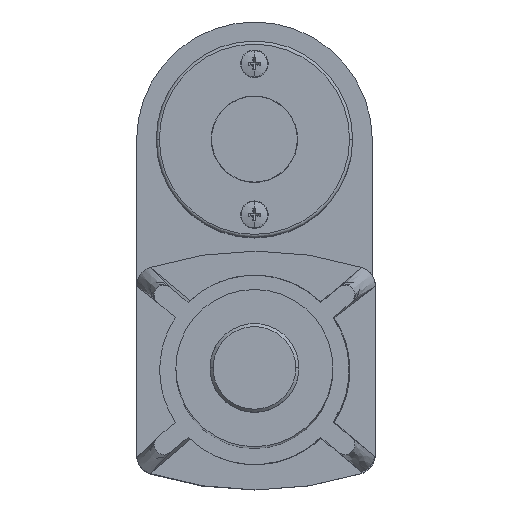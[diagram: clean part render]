
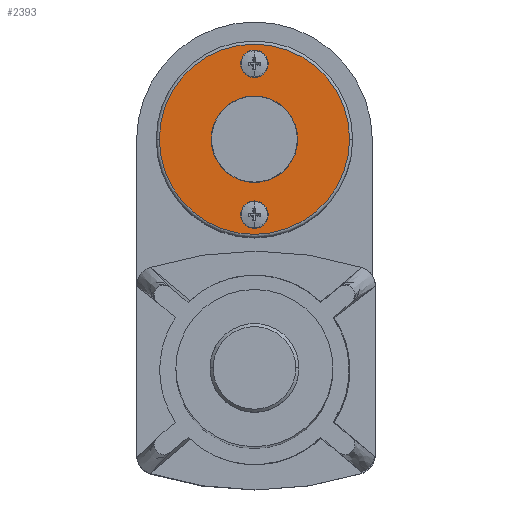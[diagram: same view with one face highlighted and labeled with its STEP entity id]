
A CAD part, top view. The second image highlights one B-rep face of the part: STEP entity #2393.
In plain terms, the highlighted planar face has unit normal (0, 0, 1).
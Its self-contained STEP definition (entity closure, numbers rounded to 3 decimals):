
#12 = AXIS2_PLACEMENT_3D ( 'NONE', #8538, #7671, #6819 ) ;
#58 = VERTEX_POINT ( 'NONE', #7625 ) ;
#99 = DIRECTION ( 'NONE',  ( -1., 0., 0. ) ) ;
#229 = CARTESIAN_POINT ( 'NONE',  ( 7.858, -31.638, 406.098 ) ) ;
#250 = CARTESIAN_POINT ( 'NONE',  ( 36.068, -56.038, 406.098 ) ) ;
#392 = EDGE_CURVE ( 'NONE', #58, #2775, #2919, .T. ) ;
#898 = DIRECTION ( 'NONE',  ( -1., 0., 0. ) ) ;
#977 = AXIS2_PLACEMENT_3D ( 'NONE', #2143, #7013, #9567 ) ;
#1582 = EDGE_LOOP ( 'NONE', ( #4018, #8037 ) ) ;
#1610 = CARTESIAN_POINT ( 'NONE',  ( 38.608, -31.638, 406.098 ) ) ;
#1663 = DIRECTION ( 'NONE',  ( 0., 0., 1. ) ) ;
#1795 = CIRCLE ( 'NONE', #977, 2.54 ) ;
#1937 = EDGE_CURVE ( 'NONE', #4274, #5885, #9382, .T. ) ;
#2113 = DIRECTION ( 'NONE',  ( -1., 0., 0. ) ) ;
#2143 = CARTESIAN_POINT ( 'NONE',  ( 38.608, -7.238, 406.098 ) ) ;
#2281 = EDGE_CURVE ( 'NONE', #5885, #4274, #7088, .T. ) ;
#2393 = ADVANCED_FACE ( 'NONE', ( #8465, #3897, #9099 ), #2851, .T. ) ;
#2398 = ORIENTED_EDGE ( 'NONE', *, *, #392, .T. ) ;
#2491 = CARTESIAN_POINT ( 'NONE',  ( 38.608, -56.038, 406.098 ) ) ;
#2658 = EDGE_CURVE ( 'NONE', #2775, #58, #9610, .T. ) ;
#2680 = ORIENTED_EDGE ( 'NONE', *, *, #6764, .F. ) ;
#2775 = VERTEX_POINT ( 'NONE', #229 ) ;
#2851 = PLANE ( 'NONE',  #6255 ) ;
#2919 = CIRCLE ( 'NONE', #7670, 30.75 ) ;
#2962 = CIRCLE ( 'NONE', #12, 2.54 ) ;
#3290 = CARTESIAN_POINT ( 'NONE',  ( 41.148, -7.238, 406.098 ) ) ;
#3897 = FACE_BOUND ( 'NONE', #8098, .T. ) ;
#4018 = ORIENTED_EDGE ( 'NONE', *, *, #1937, .F. ) ;
#4058 = AXIS2_PLACEMENT_3D ( 'NONE', #1610, #8129, #6534 ) ;
#4274 = VERTEX_POINT ( 'NONE', #250 ) ;
#5151 = DIRECTION ( 'NONE',  ( 0., 0., 1. ) ) ;
#5420 = EDGE_LOOP ( 'NONE', ( #7102, #2398 ) ) ;
#5870 = CARTESIAN_POINT ( 'NONE',  ( 38.608, -31.638, 406.098 ) ) ;
#5885 = VERTEX_POINT ( 'NONE', #8393 ) ;
#6255 = AXIS2_PLACEMENT_3D ( 'NONE', #10021, #5151, #6796 ) ;
#6450 = ORIENTED_EDGE ( 'NONE', *, *, #9198, .F. ) ;
#6534 = DIRECTION ( 'NONE',  ( -1., 0., 0. ) ) ;
#6598 = AXIS2_PLACEMENT_3D ( 'NONE', #9329, #10285, #2113 ) ;
#6764 = EDGE_CURVE ( 'NONE', #8354, #7443, #1795, .T. ) ;
#6796 = DIRECTION ( 'NONE',  ( -1., 0., 0. ) ) ;
#6819 = DIRECTION ( 'NONE',  ( -1., 0., 0. ) ) ;
#7013 = DIRECTION ( 'NONE',  ( 0., 0., 1. ) ) ;
#7088 = CIRCLE ( 'NONE', #7684, 2.54 ) ;
#7102 = ORIENTED_EDGE ( 'NONE', *, *, #2658, .T. ) ;
#7443 = VERTEX_POINT ( 'NONE', #3290 ) ;
#7625 = CARTESIAN_POINT ( 'NONE',  ( 69.358, -31.638, 406.098 ) ) ;
#7670 = AXIS2_PLACEMENT_3D ( 'NONE', #5870, #9095, #99 ) ;
#7671 = DIRECTION ( 'NONE',  ( 0., 0., 1. ) ) ;
#7684 = AXIS2_PLACEMENT_3D ( 'NONE', #2491, #1663, #898 ) ;
#7872 = CARTESIAN_POINT ( 'NONE',  ( 36.068, -7.238, 406.098 ) ) ;
#8037 = ORIENTED_EDGE ( 'NONE', *, *, #2281, .F. ) ;
#8098 = EDGE_LOOP ( 'NONE', ( #2680, #6450 ) ) ;
#8129 = DIRECTION ( 'NONE',  ( 0., 0., 1. ) ) ;
#8354 = VERTEX_POINT ( 'NONE', #7872 ) ;
#8393 = CARTESIAN_POINT ( 'NONE',  ( 41.148, -56.038, 406.098 ) ) ;
#8465 = FACE_BOUND ( 'NONE', #1582, .T. ) ;
#8538 = CARTESIAN_POINT ( 'NONE',  ( 38.608, -7.238, 406.098 ) ) ;
#9095 = DIRECTION ( 'NONE',  ( 0., 0., 1. ) ) ;
#9099 = FACE_OUTER_BOUND ( 'NONE', #5420, .T. ) ;
#9198 = EDGE_CURVE ( 'NONE', #7443, #8354, #2962, .T. ) ;
#9329 = CARTESIAN_POINT ( 'NONE',  ( 38.608, -56.038, 406.098 ) ) ;
#9382 = CIRCLE ( 'NONE', #6598, 2.54 ) ;
#9567 = DIRECTION ( 'NONE',  ( -1., 0., 0. ) ) ;
#9610 = CIRCLE ( 'NONE', #4058, 30.75 ) ;
#10021 = CARTESIAN_POINT ( 'NONE',  ( 38.608, -31.638, 406.098 ) ) ;
#10285 = DIRECTION ( 'NONE',  ( 0., 0., 1. ) ) ;
